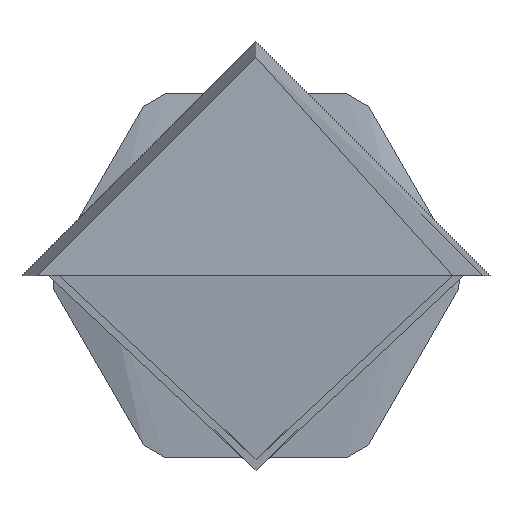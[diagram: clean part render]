
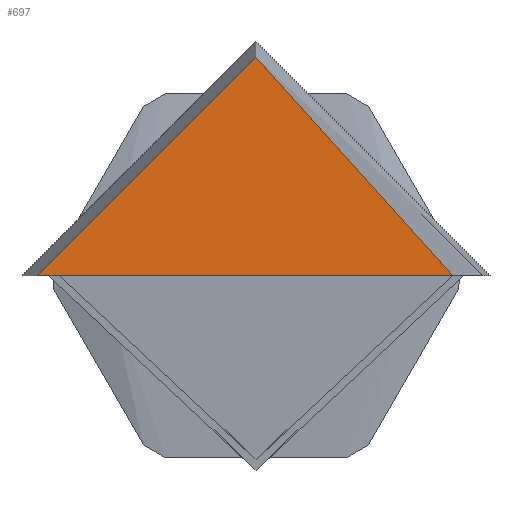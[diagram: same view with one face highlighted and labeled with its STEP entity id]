
A CAD part, left-side view. The second image highlights one B-rep face of the part: STEP entity #697.
In plain terms, the highlighted free-form (B-spline) face has degree [1, 1] with [2, 2] control points.
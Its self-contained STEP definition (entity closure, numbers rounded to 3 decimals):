
#697 = ADVANCED_FACE('',(#698,#720),#742,.T.);
#698 = FACE_BOUND('',#699,.T.);
#699 = EDGE_LOOP('',(#700,#710));
#700 = ORIENTED_EDGE('',*,*,#701,.F.);
#701 = EDGE_CURVE('',#702,#704,#706,.T.);
#702 = VERTEX_POINT('',#703);
#703 = CARTESIAN_POINT('',(0.,30.,0.));
#704 = VERTEX_POINT('',#705);
#705 = CARTESIAN_POINT('',(0.,0.,30.));
#706 = ( BOUNDED_CURVE() B_SPLINE_CURVE(2,(#707,#708,#709),
.UNSPECIFIED.,.F.,.F.) B_SPLINE_CURVE_WITH_KNOTS((3,3),(0.,
1.571),.PIECEWISE_BEZIER_KNOTS.) CURVE() 
GEOMETRIC_REPRESENTATION_ITEM() RATIONAL_B_SPLINE_CURVE((1.,
0.707,1.)) REPRESENTATION_ITEM('') );
#707 = CARTESIAN_POINT('',(0.,30.,0.));
#708 = CARTESIAN_POINT('',(0.,30.,30.));
#709 = CARTESIAN_POINT('',(0.,0.,30.));
#710 = ORIENTED_EDGE('',*,*,#711,.F.);
#711 = EDGE_CURVE('',#704,#702,#712,.T.);
#712 = ( BOUNDED_CURVE() B_SPLINE_CURVE(2,(#713,#714,#715,#716,#717,#718
,#719),.UNSPECIFIED.,.F.,.F.) B_SPLINE_CURVE_WITH_KNOTS((3,2,2,3),(
    1.571,3.142,4.712,6.283),
.UNSPECIFIED.) CURVE() GEOMETRIC_REPRESENTATION_ITEM() 
RATIONAL_B_SPLINE_CURVE((1.,0.707,1.,0.707,1.,
0.707,1.)) REPRESENTATION_ITEM('') );
#713 = CARTESIAN_POINT('',(0.,0.,30.));
#714 = CARTESIAN_POINT('',(0.,-30.,30.));
#715 = CARTESIAN_POINT('',(0.,-30.,0.));
#716 = CARTESIAN_POINT('',(0.,-30.,-30.));
#717 = CARTESIAN_POINT('',(0.,0.,-30.));
#718 = CARTESIAN_POINT('',(0.,30.,-30.));
#719 = CARTESIAN_POINT('',(0.,30.,0.));
#720 = FACE_BOUND('',#721,.T.);
#721 = EDGE_LOOP('',(#722,#734));
#722 = ORIENTED_EDGE('',*,*,#723,.T.);
#723 = EDGE_CURVE('',#724,#726,#728,.T.);
#724 = VERTEX_POINT('',#725);
#725 = CARTESIAN_POINT('',(0.,27.,0.));
#726 = VERTEX_POINT('',#727);
#727 = CARTESIAN_POINT('',(0.,-27.,0.));
#728 = ( BOUNDED_CURVE() B_SPLINE_CURVE(2,(#729,#730,#731,#732,#733),
.UNSPECIFIED.,.F.,.F.) B_SPLINE_CURVE_WITH_KNOTS((3,2,3),(0.,
1.571,3.142),.UNSPECIFIED.) CURVE() 
GEOMETRIC_REPRESENTATION_ITEM() RATIONAL_B_SPLINE_CURVE((1.,
0.707,1.,0.707,1.)) REPRESENTATION_ITEM('') );
#729 = CARTESIAN_POINT('',(0.,27.,0.));
#730 = CARTESIAN_POINT('',(0.,27.,27.));
#731 = CARTESIAN_POINT('',(0.,0.,27.));
#732 = CARTESIAN_POINT('',(0.,-27.,27.));
#733 = CARTESIAN_POINT('',(0.,-27.,0.));
#734 = ORIENTED_EDGE('',*,*,#735,.T.);
#735 = EDGE_CURVE('',#726,#724,#736,.T.);
#736 = ( BOUNDED_CURVE() B_SPLINE_CURVE(2,(#737,#738,#739,#740,#741),
.UNSPECIFIED.,.F.,.F.) B_SPLINE_CURVE_WITH_KNOTS((3,2,3),(3.142,
4.712,6.283),.PIECEWISE_BEZIER_KNOTS.) CURVE() 
GEOMETRIC_REPRESENTATION_ITEM() RATIONAL_B_SPLINE_CURVE((1.,
0.707,1.,0.707,1.)) REPRESENTATION_ITEM('') );
#737 = CARTESIAN_POINT('',(0.,-27.,0.));
#738 = CARTESIAN_POINT('',(0.,-27.,-27.));
#739 = CARTESIAN_POINT('',(0.,0.,-27.));
#740 = CARTESIAN_POINT('',(0.,27.,-27.));
#741 = CARTESIAN_POINT('',(0.,27.,0.));
#742 = B_SPLINE_SURFACE_WITH_KNOTS('',1,1,(
    (#743,#744)
    ,(#745,#746
    )),.UNSPECIFIED.,.F.,.F.,.F.,(2,2),(2,2),(-3.001,3.001),(-5.851,
    0.151),.PIECEWISE_BEZIER_KNOTS.);
#743 = CARTESIAN_POINT('',(0.,-30.01,-30.01));
#744 = CARTESIAN_POINT('',(0.,30.01,-30.01));
#745 = CARTESIAN_POINT('',(0.,-30.01,30.01));
#746 = CARTESIAN_POINT('',(0.,30.01,30.01));
